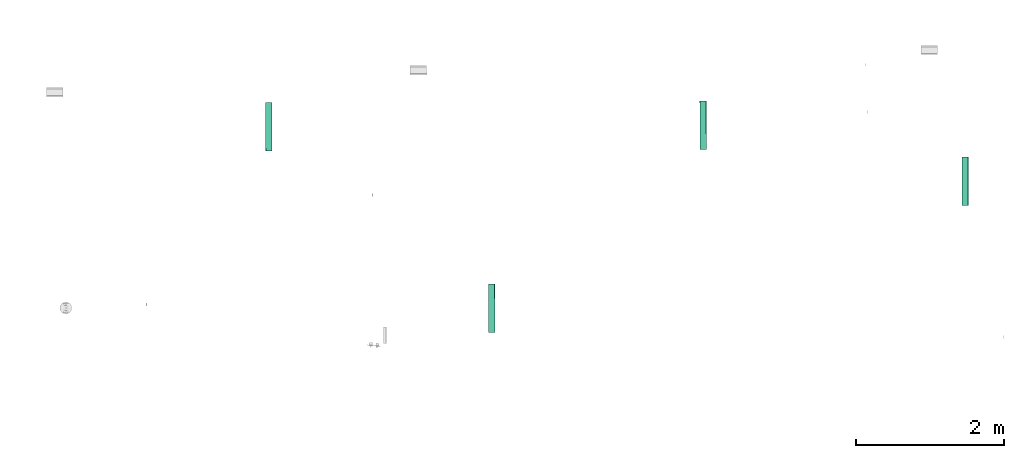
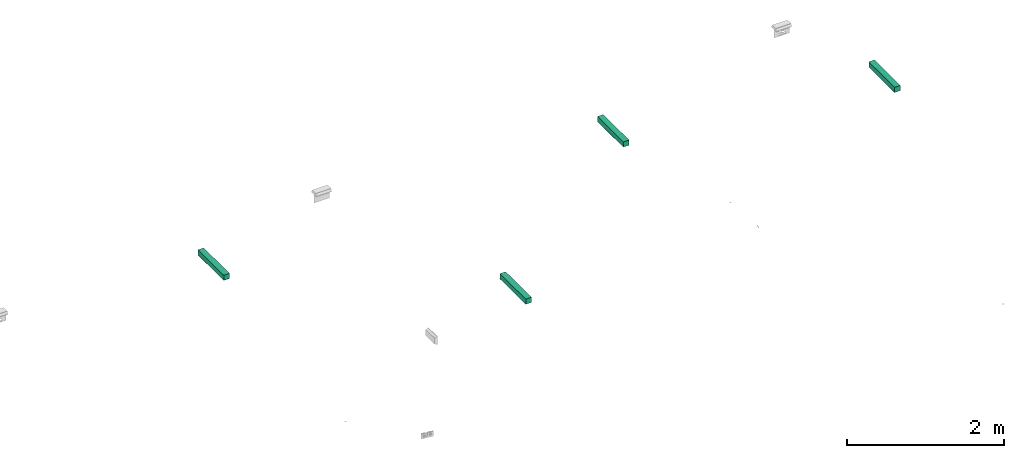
# One storey, part 24 of 197: 4 flow terminals.
"""IFC2X3 building model written with IfcOpenShell, lengths in metres."""

from ifc_helpers import new_model, entity, si_unit, converted_unit, direction, frame, origin, place, context, subcontext, project, spatial, faceted_brep, source, transform, mapped, material, material_list, type_object, type_shapes, element, save


model = new_model("IFC2X3")

# Units and contexts
model_context = context("Model", 3, precision=1e-05, world=origin(), true_north=direction((6.123031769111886e-17, 1.0)))
body_context = subcontext(model_context, "Body", "Model", "MODEL_VIEW")
ifc_project = project(units=[si_unit("LENGTHUNIT", "METRE"), converted_unit("PLANEANGLEUNIT", "DEGREE", entity("IfcPlaneAngleMeasure", 0.017453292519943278), si_unit("PLANEANGLEUNIT", "RADIAN"), dimensions=[0, 0, 0, 0, 0, 0, 0]), si_unit("AREAUNIT", "SQUARE_METRE")], contexts=[model_context])

# Site, building, storey
site_placement = place(None, origin())
site = spatial("IfcSite", under=ifc_project, at=site_placement, Name="Default", CompositionType="ELEMENT")
building_placement = place(site_placement, origin())
building = spatial("IfcBuilding", under=site, at=building_placement, CompositionType="ELEMENT")
storey_placement = place(building_placement, origin())
storey = spatial("IfcBuildingStorey", under=building, at=storey_placement, Name="Niveau 0", CompositionType="ELEMENT", Elevation=0.0)

# Flow terminals
ifc_material_1 = material(Name="BETCE-ENVELOPPE-NOIR")
ifc_material_2 = material(Name="BETCE-DIFFUSEUR-BLANC")
ifc_material_list = material_list([ifc_material_1, ifc_material_2])
light_fixture_type = type_object("IfcLightFixtureType", Name="Structure encastré_saillie_suspendu_engravure-45X 80:ENCASTRE-655mmX85mm", PredefinedType="NOTDEFINED", material=ifc_material_list)
shared_shape = source(origin(), body_context, "Body", "Brep", [
    faceted_brep([(0.32750000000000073, 0.04249999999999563, -2.5098407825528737), (-0.32749999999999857, 0.04249999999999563, -2.5098407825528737), (-0.32749999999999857, -0.04250000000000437, -2.5098407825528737), (0.32750000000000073, -0.04250000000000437, -2.5098407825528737), (0.32750000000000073, 0.04249999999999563, -2.5898407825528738), (0.32750000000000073, -0.04250000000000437, -2.5898407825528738), (-0.32749999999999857, -0.04250000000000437, -2.5898407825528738), (-0.32749999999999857, 0.04249999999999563, -2.5898407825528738), (0.3255000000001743, -0.020500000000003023, -2.5898407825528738), (0.3255000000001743, 0.020499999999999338, -2.5898407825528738), (-0.32549999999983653, 0.020499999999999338, -2.5898407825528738), (-0.3254999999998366, -0.020500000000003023, -2.5898407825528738), (0.32750000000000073, 0.04249999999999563, -2.5873503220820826), (0.32750000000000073, 0.04249999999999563, -2.5894503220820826), (-0.32749999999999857, 0.04249999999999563, -2.5894503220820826), (-0.32749999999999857, 0.04249999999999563, -2.5873503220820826), (-0.32749999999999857, -0.04250000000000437, -2.5894503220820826), (-0.32749999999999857, -0.04250000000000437, -2.5873503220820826), (0.32750000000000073, -0.04250000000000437, -2.5894503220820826), (0.32750000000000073, -0.04250000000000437, -2.5873503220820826), (0.32550000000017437, -0.020500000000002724, -2.511840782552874), (-0.32549999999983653, -0.020500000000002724, -2.511840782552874), (-0.32549999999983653, 0.020499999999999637, -2.511840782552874), (0.32550000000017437, 0.020499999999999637, -2.511840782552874)], [[[0, 1, 2, 3]], [[4, 5, 6, 7], [8, 9, 10, 11]], [[1, 0, 12, 13, 4, 7, 14, 15]], [[2, 1, 15, 14, 7, 6, 16, 17]], [[3, 2, 17, 16, 6, 5, 18, 19]], [[0, 3, 19, 18, 5, 4, 13, 12]], [[20, 21, 22, 23]], [[20, 23, 9, 8]], [[23, 22, 10, 9]], [[22, 21, 11, 10]], [[21, 20, 8, 11]]]),
    faceted_brep([(0.32550000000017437, 0.020499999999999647, -2.5872355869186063), (-0.32549999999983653, 0.020499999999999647, -2.5872355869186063), (-0.32549999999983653, -0.020500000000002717, -2.5872355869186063), (0.32550000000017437, -0.020500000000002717, -2.5872355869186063), (0.32550000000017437, 0.020499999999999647, -2.5894503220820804), (0.32550000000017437, -0.020500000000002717, -2.5894503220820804), (-0.32549999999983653, -0.020500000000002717, -2.5894503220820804), (-0.32549999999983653, 0.020499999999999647, -2.5894503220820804)], [[[0, 1, 2, 3]], [[4, 5, 6, 7]], [[1, 0, 4, 7]], [[2, 1, 7, 6]], [[3, 2, 6, 5]], [[0, 3, 5, 4]]]),
    faceted_brep([(-0.3274999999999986, -0.04250000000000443, -2.5898407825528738), (-0.3274999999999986, 0.0424999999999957, -2.5898407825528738), (-0.3274999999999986, 0.0424999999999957, -2.5894503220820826), (-0.3274999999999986, -0.04250000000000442, -2.5894503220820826), (-0.3284999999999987, 0.04349999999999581, -2.5898407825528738), (-0.32849999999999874, -0.043500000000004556, -2.5898407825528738), (-0.32907888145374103, -0.04407888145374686, -2.5894503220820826), (-0.32907888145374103, 0.04407888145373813, -2.5894503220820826), (0.3275000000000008, 0.04249999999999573, -2.5898407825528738), (0.3275000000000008, 0.04249999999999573, -2.5894503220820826), (0.32850000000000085, 0.043499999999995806, -2.5898407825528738), (0.3290788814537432, 0.04407888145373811, -2.5894503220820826), (0.3275000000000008, -0.04250000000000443, -2.5898407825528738), (0.3275000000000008, -0.04250000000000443, -2.5894503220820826), (0.3285000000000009, -0.043500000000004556, -2.5898407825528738), (0.3290788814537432, -0.04407888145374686, -2.5894503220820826)], [[[0, 1, 2, 3]], [[4, 5, 6, 7]], [[1, 8, 9, 2]], [[10, 4, 7, 11]], [[8, 12, 13, 9]], [[14, 10, 11, 15]], [[1, 0, 12, 8], [5, 4, 10, 14]], [[12, 0, 3, 13]], [[5, 14, 15, 6]], [[3, 2, 9, 13], [7, 6, 15, 11]]], outer=[[True], [True], [True], [True], [True], [True], [False, True], [True], [True], [False, True]]),
])
type_shapes(light_fixture_type, [shared_shape])
for number, where, z_axis, x_axis, name in (
    (1, (29.794470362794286, 148.81139803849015, 4.99019485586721), (0.0, 0.0, 1.0), (-0.0014095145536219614, 0.9999990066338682, 0.0), "Structure encastré_saillie_suspendu_engravure-45X 80:ENCASTRE-655mmX85mm"),
    (2, (26.249533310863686, 149.56955204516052, 4.925194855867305), (0.0, 0.0, 1.0), (0.003319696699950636, -0.999994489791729, 0.0), "Structure encastré_saillie_suspendu_engravure-45X 80:ENCASTRE-655mmX85mm"),
    (3, (20.373128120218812, 149.55004405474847, 4.925194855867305), (0.0, 0.0, 1.0), (0.003319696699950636, -0.999994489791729, 0.0), "Structure encastré_saillie_suspendu_engravure-45X 80:ENCASTRE-655mmX85mm"),
    (4, (23.388337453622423, 147.09412107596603, 4.988012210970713), (0.0, 0.0, 1.0), (0.003320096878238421, -0.9999944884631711, 0.0), "Structure encastré_saillie_suspendu_engravure-45X 80:ENCASTRE-655mmX85mm"),
):
    element("IfcFlowTerminal", number, at=place(storey_placement, frame(where, z_axis=z_axis, x_axis=x_axis)), inside=storey, type_object=light_fixture_type, material=ifc_material_list, Name=name, ObjectType="Structure encastré_saillie_suspendu_engravure-45X 80:ENCASTRE-655mmX85mm", context=body_context, shape_type="MappedRepresentation", body=[
        mapped(shared_shape, transform((0.0, 0.0, 0.0), scale=1.0)),
    ])

save(model, "model.ifc")
